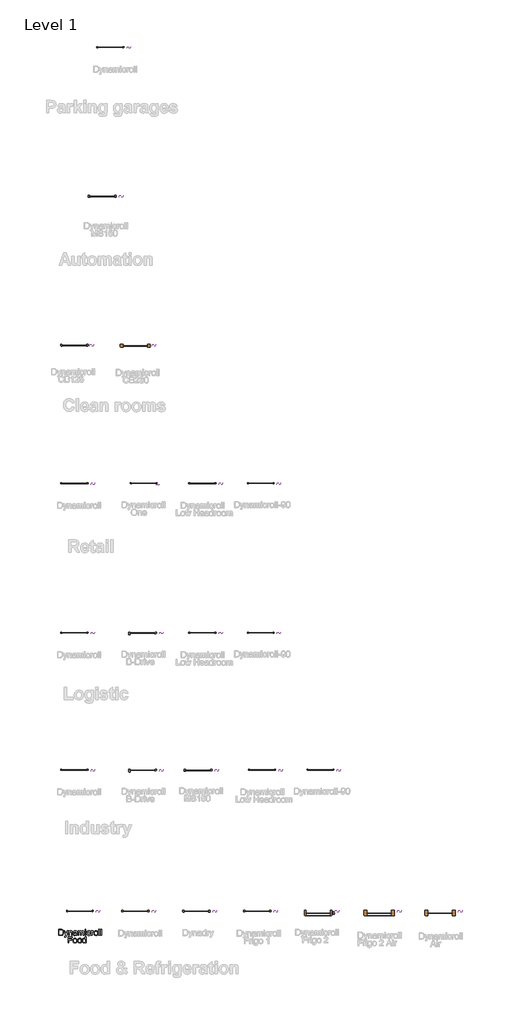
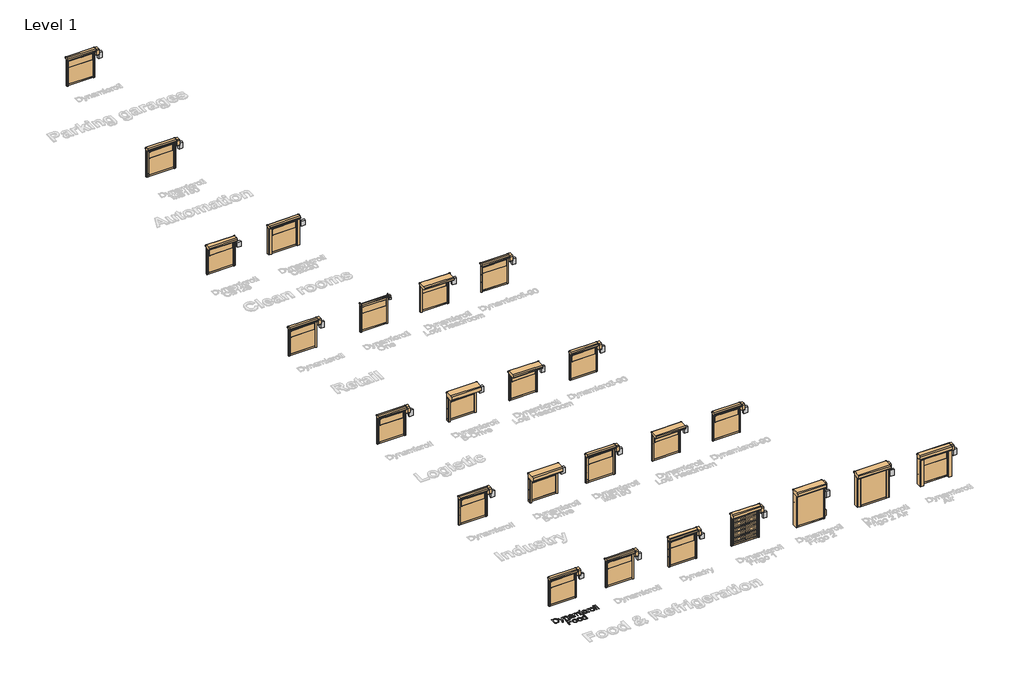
# One storey, part 1 of 17: 24 doors, 24 electric distribution boards, 1 proxy.
"""IFC4 building model written with IfcOpenShell, lengths in millimetres."""

from ifc_helpers import new_model, si_unit, origin, origin_with_axes, place, context, project, spatial, polyline, outline, extrude, transform, mapped, element, save
from components import door_73d46575, door_7dfef6e7, door_fc38a23d, door_0f29b29e, door_dcf74658, door_a66aba2e, door_ffd00a84, door_82254b21, door_781c7d04, door_8d8b76a4, door_111b3a7b, door_f3b390bc, cb125_eadb58d3, cb230_7affb9d1, ee_wpb_control_panel_bmp_sh_control_panel_one_fab0d9c8, ee_wpb_control_panel_bmp_sh_control_panel_pvc_26d0edfe, ee_wpb_control_panel_bmp_sh_control_panel_powder_coated_2337cf2d

model = new_model("IFC4")

# Units and contexts
model_context = context("Model", 3, world=origin())
ifc_project = project(units=[si_unit("LENGTHUNIT", "METRE", prefix="MILLI")], contexts=[model_context])

# Site, building, storey
site = spatial("IfcSite", under=ifc_project)
building = spatial("IfcBuilding", under=site)
storey = spatial("IfcBuildingStorey", under=building, Name="Level 1", Elevation=0.0)

# Proxy
placement = place(None, origin())
element("IfcBuildingElementProxy", 1, Name="500mm", ObjectType="500mm", at=placement, inside=storey, context=model_context, shape_type="SweptSolid", body=[
    extrude(outline(polyline([(202.3822984, 7606.4708973), (202.3822984, 8108.7524481), (375.6547181, 8108.7524481), (427.4341089, 8106.9436949), (465.2952976, 8101.5174355), (505.3331214, 8087.5685765), (539.1169513, 8065.5876273), (557.7333131, 8047.6227232), (573.851143, 8027.3278998), (587.470441, 8004.7031571), (598.5912072, 7979.7484951), (613.3984575, 7923.7691182), (618.3342076, 7860.309474), (614.9926128, 7806.3994333), (604.9678284, 7758.9579843), (589.7007256, 7718.567607), (570.6321755, 7685.810781), (548.6818831, 7659.9517424), (524.7695535, 7640.2547272), (497.3163596, 7625.6467463), (464.7434746, 7615.0548106), (426.9895848, 7608.6168756), (383.9933766, 7606.4708973), (202.3822984, 7606.4708973)]), holes=[polyline([(265.1674922, 7669.2560912), (376.2678547, 7669.2560912), (422.2224473, 7671.5246968), (457.0792663, 7678.3305137), (483.382829, 7689.2750031), (503.6776524, 7703.9596261), (525.489989, 7731.1369085), (541.8760662, 7766.3156242), (552.1307769, 7809.6490576), (555.5490137, 7861.2904927), (553.8743842, 7897.741467), (548.8504957, 7929.7165438), (540.4773482, 7957.2157229), (528.7549417, 7980.2390044), (514.6336381, 7999.3075545), (499.063799, 8014.9425393), (482.0454247, 8027.1439588), (463.5785149, 8035.911813), (427.4647657, 8043.4533939), (374.5510721, 8045.9672542), (265.1674922, 8045.9672542), (265.1674922, 7669.2560912)])]), origin_with_axes(), (0.0, 0.0, 1.0), 5.0),
    extrude(outline(polyline([(696.8156999, 7465.2042112), (688.9675506, 7525.6594857), (720.8506569, 7520.1412558), (737.6199445, 7521.8733669), (750.6490985, 7527.0697), (760.7965102, 7535.3623734), (768.9205709, 7546.3835048), (786.0883974, 7592.6140089), (790.9934906, 7607.819798), (657.5749537, 7975.3339112), (723.7937129, 7975.3339112), (794.5496833, 7770.5462672), (819.1977769, 7688.6312096), (843.8458706, 7760.9813353), (916.5638783, 7975.3339112), (982.2921281, 7975.3339112), (853.9013118, 7597.6417295), (820.5466776, 7515.7266719), (803.4708216, 7489.5763934), (784.1263601, 7471.4582051), (761.6549015, 7460.8815978), (735.1980547, 7457.356062), (717.0185528, 7459.3180993), (696.8156999, 7465.2042112)])), origin_with_axes(), (0.0, 0.0, 1.0), 5.0),
    extrude(outline(polyline([(1034.2861168, 7606.4708973), (1034.2861168, 7975.3339112), (1097.0713106, 7975.3339112), (1097.0713106, 7923.8304318), (1118.8836473, 7949.7967693), (1145.079911, 7968.3441533), (1175.6601018, 7979.4725836), (1210.6242198, 7983.1820604), (1241.5722926, 7980.1930192), (1269.9145347, 7971.2258956), (1293.5509529, 7957.3996639), (1310.3815542, 7939.8332986), (1321.8012244, 7918.572785), (1329.2048496, 7893.6641082), (1332.5157875, 7832.963579), (1332.5157875, 7606.4708973), (1269.7305937, 7606.4708973), (1269.7305937, 7824.5022932), (1267.9218406, 7856.9678792), (1262.4955811, 7880.0524744), (1252.4861252, 7896.5918358), (1236.9277825, 7909.4217204), (1216.9855126, 7917.65308), (1193.8242754, 7920.3968666), (1174.7595574, 7918.8563607), (1157.0514043, 7914.2348431), (1140.699816, 7906.5323139), (1125.7047926, 7895.7487729), (1113.1776442, 7880.6579469), (1104.2296811, 7860.0335625), (1098.8609032, 7833.8756198), (1097.0713106, 7802.1841188), (1097.0713106, 7606.4708973), (1034.2861168, 7606.4708973)])), origin_with_axes(), (0.0, 0.0, 1.0), 5.0),
    extrude(outline(polyline([(1654.289906, 7653.5597927), (1624.292195, 7627.8387099), (1593.4054358, 7611.0081086), (1560.9245213, 7601.7190882), (1526.1443443, 7598.6227481), (1498.1891448, 7600.4851507), (1473.6751748, 7606.0723585), (1452.6024342, 7615.3843715), (1434.9709232, 7628.4211897), (1421.0488889, 7644.3550786), (1411.1045788, 7662.3583038), (1405.1379926, 7682.4308651), (1403.1491306, 7704.5727627), (1406.1535002, 7730.6004139), (1415.1666091, 7754.2368321), (1429.0694829, 7774.4703418), (1446.743147, 7790.2892676), (1467.5131514, 7802.2454324), (1490.7050455, 7810.8906593), (1545.0289534, 7820.3329639), (1609.2243616, 7830.2657777), (1653.922024, 7841.9153743), (1654.289906, 7855.8948901), (1649.9672925, 7883.9152354), (1636.9994522, 7902.2480215), (1623.924313, 7910.1881412), (1607.9980883, 7915.8596553), (1567.5923825, 7920.3968666), (1530.1910463, 7917.3771685), (1504.0714246, 7908.3180744), (1486.2598047, 7891.5641152), (1473.7824737, 7865.4598219), (1410.9972798, 7873.3079712), (1421.8957839, 7907.6436241), (1438.1592338, 7934.621637), (1461.3051427, 7955.2536856), (1492.8510238, 7970.5514452), (1531.432648, 7980.0244066), (1575.6857863, 7983.1820604), (1618.1301715, 7980.3922886), (1651.7760457, 7972.0229732), (1677.1445749, 7959.4383433), (1694.7569255, 7944.0026279), (1706.4371788, 7924.9187494), (1714.0094165, 7901.3896301), (1717.0750998, 7846.4525855), (1717.0750998, 7768.3389752), (1720.2634105, 7659.2619636), (1724.9845627, 7632.2992791), (1732.7713983, 7606.4708973), (1669.9862044, 7606.4708973), (1659.9307632, 7628.2985624), (1654.289906, 7653.5597927)]), holes=[polyline([(1654.289906, 7779.1301804), (1612.1061039, 7768.6762004), (1552.99973, 7759.8776893), (1498.9823904, 7749.6996208), (1484.9262325, 7742.7405197), (1474.5182377, 7733.144931), (1468.0803028, 7721.6486187), (1465.9343245, 7708.9873467), (1470.6094915, 7690.3173354), (1484.6349925, 7675.0195758), (1507.7042593, 7664.8108504), (1539.5107235, 7661.407942), (1573.2332397, 7665.163404), (1603.0316813, 7676.4297901), (1627.1892657, 7693.0304651), (1643.9892101, 7712.7887939), (1651.4388205, 7733.144931), (1653.922024, 7761.3492173), (1654.289906, 7779.1301804)])]), origin_with_axes(), (0.0, 0.0, 1.0), 5.0),
    extrude(outline(polyline([(1803.4047414, 7606.4708973), (1803.4047414, 7975.3339112), (1866.1899352, 7975.3339112), (1866.1899352, 7914.633382), (1885.0745443, 7942.5157715), (1909.354756, 7964.358765), (1938.2028358, 7978.4762365), (1970.7910492, 7983.1820604), (2005.7091819, 7978.384266), (2033.6988703, 7963.990883), (2054.6068304, 7940.952273), (2068.2797779, 7910.218798), (2091.1651037, 7942.1402253), (2117.2693969, 7964.9412448), (2146.5926576, 7978.6218565), (2179.1348858, 7983.1820604), (2204.2696567, 7981.2851689), (2226.3310801, 7975.5944943), (2245.319156, 7966.1100366), (2261.2338844, 7952.8317958), (2273.8146822, 7935.6064878), (2282.8009663, 7914.2808284), (2288.1927368, 7888.8548176), (2289.9899937, 7859.3284554), (2289.9899937, 7606.4708973), (2227.2047998, 7606.4708973), (2227.2047998, 7832.3504424), (2225.7486002, 7863.6663972), (2221.3800016, 7884.7736267), (2213.1946272, 7899.2283234), (2200.2881005, 7910.58668), (2183.6874255, 7917.9443199), (2164.419606, 7920.3968666), (2146.6271466, 7918.8257039), (2130.4058498, 7914.1122158), (2115.7557158, 7906.2564024), (2102.6767444, 7895.2582636), (2091.9200282, 7880.7959026), (2084.2366594, 7862.5474228), (2079.6266382, 7840.5128241), (2078.0899644, 7814.6921066), (2078.0899644, 7606.4708973), (2015.3047706, 7606.4708973), (2015.3047706, 7839.3402003), (2011.6719359, 7874.8408128), (2000.7734318, 7900.1633568), (1992.3466348, 7909.0155173), (1981.5975828, 7915.3384891), (1953.1327134, 7920.3968666), (1928.9444722, 7917.0246149), (1906.6569547, 7906.9078601), (1888.2628549, 7890.2918566), (1875.7548671, 7867.4218593), (1868.5811682, 7835.6920372), (1866.1899352, 7792.4965596), (1866.1899352, 7606.4708973), (1803.4047414, 7606.4708973)])), origin_with_axes(), (0.0, 0.0, 1.0), 5.0),
    extrude(outline(polyline([(2384.1677844, 8045.9672542), (2384.1677844, 8108.7524481), (2446.9529783, 8108.7524481), (2446.9529783, 8045.9672542), (2384.1677844, 8045.9672542)])), origin_with_axes(), (0.0, 0.0, 1.0), 5.0),
    extrude(outline(polyline([(2384.1677844, 7606.4708973), (2384.1677844, 7975.3339112), (2446.9529783, 7975.3339112), (2446.9529783, 7606.4708973), (2384.1677844, 7606.4708973)])), origin_with_axes(), (0.0, 0.0, 1.0), 5.0),
    extrude(outline(polyline([(2776.5752459, 7739.8894343), (2839.3604398, 7732.041285), (2832.5316302, 7702.4152881), (2821.8553882, 7676.1998638), (2807.3317136, 7653.3950122), (2788.9606064, 7634.0007333), (2767.5161518, 7618.5228648), (2743.7724347, 7607.4672444), (2717.7294551, 7600.8338722), (2689.3872131, 7598.6227481), (2654.1740084, 7601.7075919), (2622.6013025, 7610.9621234), (2594.6690956, 7626.3863424), (2570.3773876, 7647.9802491), (2550.7148614, 7675.3376404), (2536.6701998, 7708.0523133), (2528.2434029, 7746.1242677), (2525.4344706, 7789.5535036), (2530.2322649, 7845.4255816), (2544.625648, 7893.8480492), (2555.4781668, 7914.7981624), (2568.844546, 7932.9508396), (2584.7247855, 7948.3060808), (2603.1188852, 7960.863886), (2644.1223993, 7977.6025168), (2688.5288218, 7983.1820604), (2716.3843866, 7981.2660083), (2741.5804711, 7975.5178522), (2764.1170755, 7965.9375919), (2783.9941995, 7952.5252275), (2800.8746181, 7935.5873273), (2814.4211062, 7915.4304596), (2824.6336637, 7892.0546245), (2831.5122906, 7865.4598219), (2768.7270967, 7857.6116727), (2757.3380833, 7885.0035529), (2739.6031054, 7904.6392544), (2716.5031818, 7916.4574635), (2689.0193311, 7920.3968666), (2667.6860075, 7918.4578219), (2648.4450127, 7912.6406878), (2631.2963468, 7902.9454644), (2616.2400097, 7889.3721516), (2603.9811086, 7871.6065169), (2595.2247507, 7849.3343278), (2589.970936, 7822.5555843), (2588.2196644, 7791.2702863), (2589.9326149, 7759.5136394), (2595.0714666, 7732.4244954), (2603.6362193, 7710.0028543), (2615.626873, 7692.2487159), (2630.384306, 7678.7558773), (2647.2493962, 7669.1181354), (2666.2221437, 7663.3354903), (2687.3025484, 7661.407942), (2719.8141198, 7666.2210647), (2746.470236, 7680.660433), (2757.2499449, 7691.5819298), (2765.8606828, 7705.0939289), (2776.5752459, 7739.8894343)])), origin_with_axes(), (0.0, 0.0, 1.0), 5.0),
    extrude(outline(polyline([(2894.2974844, 7606.4708973), (2894.2974844, 7975.3339112), (2949.234529, 7975.3339112), (2949.234529, 7920.7647486), (2969.5293524, 7952.4026001), (2988.2300205, 7971.0419546), (3006.9920023, 7980.1470339), (3027.4707666, 7983.1820604), (3058.7407362, 7978.3382808), (3090.5012152, 7963.806942), (3069.5319414, 7907.5209967), (3047.4590217, 7917.1778991), (3025.386102, 7920.3968666), (3006.6394487, 7917.3005264), (2989.8854895, 7908.0115061), (2976.3504977, 7893.2349126), (2967.2607468, 7873.6758532), (2959.6271954, 7838.6044363), (2957.0826782, 7800.3447088), (2957.0826782, 7606.4708973), (2894.2974844, 7606.4708973)])), origin_with_axes(), (0.0, 0.0, 1.0), 5.0),
    extrude(outline(polyline([(3114.0456628, 7790.9024043), (3117.4409071, 7838.6734142), (3127.6266398, 7879.8378766), (3144.6028611, 7914.3957915), (3168.3695708, 7942.3471589), (3192.2972289, 7960.2124283), (3218.7080905, 7972.973335), (3247.6021555, 7980.6298791), (3278.979424, 7983.1820604), (3313.6178131, 7980.074224), (3344.9376001, 7970.7507146), (3372.9387848, 7955.2115325), (3397.6213675, 7933.4566774), (3417.7667388, 7906.2219134), (3432.1562898, 7874.2430046), (3440.7900203, 7837.5199508), (3443.6679305, 7796.0527522), (3438.5788963, 7732.6237649), (3432.2176034, 7706.5884495), (3423.3117935, 7684.339253), (3411.9725974, 7665.1212508), (3398.3111462, 7648.1795185), (3382.3274399, 7633.5140561), (3364.0214786, 7621.1248635), (3323.293876, 7604.248277), (3278.979424, 7598.6227481), (3243.8351972, 7601.7190882), (3212.2241703, 7611.0081086), (3184.1463434, 7626.4898092), (3159.6017166, 7648.1641901), (3139.6709431, 7675.6633693), (3125.4346763, 7708.6194647), (3116.8929162, 7747.0324763), (3114.0456628, 7790.9024043)]), holes=[polyline([(3176.8308567, 7791.0250316), (3178.647274, 7760.5713002), (3184.0965261, 7734.2025918), (3193.1786129, 7711.9189063), (3205.8935343, 7693.7202439), (3221.3599065, 7679.5836118), (3238.6963455, 7669.4860174), (3257.9028514, 7663.4274608), (3278.979424, 7661.407942), (3299.9486977, 7663.4389571), (3319.0785615, 7669.5320027), (3336.3690153, 7679.6870786), (3351.8200591, 7693.9041849), (3364.5349805, 7712.2829562), (3373.6170673, 7734.9230273), (3379.0663193, 7761.8243982), (3380.8827367, 7792.9870689), (3379.054823, 7822.4751101), (3373.571082, 7848.1540398), (3364.4315137, 7870.0238579), (3351.6361181, 7888.0845646), (3336.1275927, 7902.2211967), (3318.8486352, 7912.3187911), (3299.7992457, 7918.3773477), (3278.979424, 7920.3968666), (3257.9028514, 7918.3850119), (3238.6963455, 7912.3494479), (3221.3599065, 7902.2901746), (3205.8935343, 7888.207192), (3193.1786129, 7870.062179), (3184.0965261, 7847.8168146), (3178.647274, 7821.4710988), (3176.8308567, 7791.0250316)])]), origin_with_axes(), (0.0, 0.0, 1.0), 5.0),
    extrude(outline(polyline([(3514.3012736, 7606.4708973), (3514.3012736, 8108.7524481), (3577.0864674, 8108.7524481), (3577.0864674, 7606.4708973), (3514.3012736, 7606.4708973)])), origin_with_axes(), (0.0, 0.0, 1.0), 5.0),
    extrude(outline(polyline([(3671.2642582, 7606.4708973), (3671.2642582, 8108.7524481), (3734.0494521, 8108.7524481), (3734.0494521, 7606.4708973), (3671.2642582, 7606.4708973)])), origin_with_axes(), (0.0, 0.0, 1.0), 5.0),
    extrude(outline(polyline([(987.1972214, 6996.5968081), (987.1972214, 7498.8783589), (1324.6676383, 7498.8783589), (1324.6676383, 7436.093165), (1049.9824152, 7436.093165), (1049.9824152, 7286.9783296), (1285.4268922, 7286.9783296), (1285.4268922, 7224.1931358), (1049.9824152, 7224.1931358), (1049.9824152, 6996.5968081), (987.1972214, 6996.5968081)])), origin_with_axes(), (0.0, 0.0, 1.0), 5.0),
    extrude(outline(polyline([(1387.4528322, 7181.028315), (1390.8480764, 7228.7993249), (1401.0338091, 7269.9637874), (1418.0100304, 7304.5217023), (1441.7767401, 7332.4730697), (1465.7043982, 7350.3383391), (1492.1152598, 7363.0992458), (1521.0093248, 7370.7557898), (1552.3865933, 7373.3079712), (1587.0249824, 7370.2001347), (1618.3447694, 7360.8766254), (1646.3459542, 7345.3374432), (1671.0285368, 7323.5825882), (1691.1739081, 7296.3478242), (1705.5634591, 7264.3689154), (1714.1971896, 7227.6458616), (1717.0750998, 7186.178663), (1711.9860656, 7122.7496756), (1705.6247727, 7096.7143603), (1696.7189628, 7074.4651638), (1685.3797667, 7055.2471616), (1671.7183155, 7038.3054293), (1655.7346092, 7023.6399669), (1637.4286479, 7011.2507743), (1596.7010453, 6994.3741877), (1552.3865933, 6988.7486589), (1517.2423665, 6991.844999), (1485.6313396, 7001.1340194), (1457.5535128, 7016.61572), (1433.0088859, 7038.2901009), (1413.0781124, 7065.78928), (1398.8418456, 7098.7453754), (1390.3000855, 7137.1583871), (1387.4528322, 7181.028315)]), holes=[polyline([(1450.238026, 7181.1509424), (1452.0544433, 7150.6972109), (1457.5036954, 7124.3285025), (1466.5857822, 7102.0448171), (1479.3007036, 7083.8461546), (1494.7670758, 7069.7095226), (1512.1035148, 7059.6119282), (1531.3100207, 7053.5533716), (1552.3865933, 7051.5338527), (1573.355867, 7053.5648679), (1592.4857308, 7059.6579135), (1609.7761846, 7069.8129894), (1625.2272284, 7084.0300956), (1637.9421498, 7102.408867), (1647.0242366, 7125.0489381), (1652.4734886, 7151.950309), (1654.289906, 7183.1129797), (1652.4619923, 7212.6010208), (1646.9782513, 7238.2799505), (1637.838683, 7260.1497687), (1625.0432874, 7278.2104754), (1609.534762, 7292.3471075), (1592.2558045, 7302.4447019), (1573.206415, 7308.5032585), (1552.3865933, 7310.5227773), (1531.3100207, 7308.5109227), (1512.1035148, 7302.4753587), (1494.7670758, 7292.4160854), (1479.3007036, 7278.3331028), (1466.5857822, 7260.1880898), (1457.5036954, 7237.9427254), (1452.0544433, 7211.5970096), (1450.238026, 7181.1509424)])]), origin_with_axes(), (0.0, 0.0, 1.0), 5.0),
    extrude(outline(polyline([(1772.0121444, 7181.028315), (1775.4073887, 7228.7993249), (1785.5931214, 7269.9637874), (1802.5693427, 7304.5217023), (1826.3360524, 7332.4730697), (1850.2637105, 7350.3383391), (1876.6745721, 7363.0992458), (1905.5686371, 7370.7557898), (1936.9459056, 7373.3079712), (1971.5842947, 7370.2001347), (2002.9040817, 7360.8766254), (2030.9052664, 7345.3374432), (2055.5878491, 7323.5825882), (2075.7332204, 7296.3478242), (2090.1227714, 7264.3689154), (2098.7565019, 7227.6458616), (2101.6344121, 7186.178663), (2096.5453779, 7122.7496756), (2090.184085, 7096.7143603), (2081.2782751, 7074.4651638), (2069.939079, 7055.2471616), (2056.2776278, 7038.3054293), (2040.2939215, 7023.6399669), (2021.9879602, 7011.2507743), (1981.2603576, 6994.3741877), (1936.9459056, 6988.7486589), (1901.8016788, 6991.844999), (1870.1906519, 7001.1340194), (1842.112825, 7016.61572), (1817.5681982, 7038.2901009), (1797.6374247, 7065.78928), (1783.4011579, 7098.7453754), (1774.8593978, 7137.1583871), (1772.0121444, 7181.028315)]), holes=[polyline([(1834.7973383, 7181.1509424), (1836.6137556, 7150.6972109), (1842.0630077, 7124.3285025), (1851.1450944, 7102.0448171), (1863.8600159, 7083.8461546), (1879.3263881, 7069.7095226), (1896.6628271, 7059.6119282), (1915.869333, 7053.5533716), (1936.9459056, 7051.5338527), (1957.9151793, 7053.5648679), (1977.0450431, 7059.6579135), (1994.3354969, 7069.8129894), (2009.7865407, 7084.0300956), (2022.5014621, 7102.408867), (2031.5835489, 7125.0489381), (2037.0328009, 7151.950309), (2038.8492183, 7183.1129797), (2037.0213046, 7212.6010208), (2031.5375636, 7238.2799505), (2022.3979953, 7260.1497687), (2009.6025997, 7278.2104754), (1994.0940743, 7292.3471075), (1976.8151168, 7302.4447019), (1957.7657273, 7308.5032585), (1936.9459056, 7310.5227773), (1915.869333, 7308.5109227), (1896.6628271, 7302.4753587), (1879.3263881, 7292.4160854), (1863.8600159, 7278.3331028), (1851.1450944, 7260.1880898), (1842.0630077, 7237.9427254), (1836.6137556, 7211.5970096), (1834.7973383, 7181.1509424)])]), origin_with_axes(), (0.0, 0.0, 1.0), 5.0),
    extrude(outline(polyline([(2399.8640829, 6996.5968081), (2399.8640829, 7055.8258093), (2381.0791085, 7026.479556), (2358.3240743, 7005.5179465), (2331.5989801, 6992.9409808), (2300.9038262, 6988.7486589), (2260.3141794, 6994.8187118), (2223.1580979, 7013.0288706), (2191.7041873, 7042.1068766), (2168.2210532, 7080.7804713), (2153.5977439, 7127.4861563), (2148.7233075, 7180.660433), (2153.2145335, 7233.1755878), (2166.6882116, 7280.6017084), (2176.7896381, 7301.7319305), (2189.1290133, 7320.2409934), (2203.7063374, 7336.128897), (2220.5216102, 7349.3956415), (2258.4900978, 7367.3298888), (2300.6585715, 7373.3079712), (2331.3767181, 7369.031343), (2358.5386721, 7356.2014584), (2381.5619536, 7336.5351001), (2399.8640829, 7311.7490507), (2399.8640829, 7498.8783589), (2462.6492767, 7498.8783589), (2462.6492767, 6996.5968081), (2399.8640829, 6996.5968081)]), holes=[polyline([(2211.5085013, 7180.9056877), (2213.2789334, 7150.4596205), (2218.5902298, 7124.1139047), (2227.4423903, 7101.8685403), (2239.835415, 7083.7235273), (2254.6350011, 7069.6405447), (2270.7068457, 7059.5812714), (2288.050949, 7053.5457074), (2306.6673108, 7051.5338527), (2325.371811, 7053.4537369), (2342.6124474, 7059.2133894), (2358.38922, 7068.8128102), (2372.7021289, 7082.2519993), (2384.5854838, 7099.6382557), (2393.0735944, 7121.0788782), (2398.1664608, 7146.5738669), (2399.8640829, 7176.1232218), (2398.1358039, 7208.51983), (2392.9509671, 7236.3025848), (2384.3095723, 7259.4714863), (2372.2116196, 7278.0265344), (2357.5844782, 7292.2436407), (2341.3555172, 7302.3987166), (2323.5247368, 7308.4917622), (2304.0921368, 7310.5227773), (2285.107893, 7308.5722363), (2267.7637898, 7302.7206134), (2252.0598271, 7292.9679084), (2237.996005, 7279.3141214), (2226.4077222, 7261.4603483), (2218.1303773, 7239.107685), (2213.1639703, 7212.2561315), (2211.5085013, 7180.9056877)])]), origin_with_axes(), (0.0, 0.0, 1.0), 5.0),
])

# Doors
door_shape = door_73d46575(model_context)
element("IfcDoor", 2, ObjectType="DO_WPB_Dynamicroll_BMP : Dynamicroll", at=placement, inside=storey, context=model_context, shape_type="MappedRepresentation", body=[
    mapped(door_shape, transform((6497.2684086, 9654.9840976, 0.0), x_axis=(1.0, 0.0, 0.0), y_axis=(0.0, 1.0, 0.0), z_axis=(0.0, 0.0, 1.0))),
])
element("IfcDoor", 3, ObjectType="DO_WPB_Dynamicroll_BMP : Dynamicroll", at=placement, inside=storey, context=model_context, shape_type="MappedRepresentation", body=[
    mapped(door_shape, transform((1488.8652486, 32462.1380074, 0.0), x_axis=(1.0, 0.0, 0.0), y_axis=(0.0, 1.0, 0.0), z_axis=(0.0, 0.0, 1.0))),
])
element("IfcDoor", 4, ObjectType="DO_WPB_Dynamicroll_BMP : Dynamicroll", at=placement, inside=storey, context=model_context, shape_type="MappedRepresentation", body=[
    mapped(door_shape, transform((1488.8652486, 21224.4832479, 0.0), x_axis=(1.0, 0.0, 0.0), y_axis=(0.0, 1.0, 0.0), z_axis=(0.0, 0.0, 1.0))),
])
element("IfcDoor", 5, ObjectType="DO_WPB_Dynamicroll_BMP : Dynamicroll", at=placement, inside=storey, context=model_context, shape_type="MappedRepresentation", body=[
    mapped(door_shape, transform((1488.8652486, 44698.8509751, 0.0), x_axis=(1.0, 0.0, 0.0), y_axis=(0.0, 1.0, 0.0), z_axis=(0.0, 0.0, 1.0))),
])
element("IfcDoor", 6, ObjectType="DO_WPB_Dynamicroll_BMP : Dynamicroll", at=placement, inside=storey, context=model_context, shape_type="MappedRepresentation", body=[
    mapped(door_shape, transform((4445.6536388, 80429.8524972, 0.0), x_axis=(1.0, 0.0, 0.0), y_axis=(0.0, 1.0, 0.0), z_axis=(0.0, 0.0, 1.0))),
])
door_2_shape = door_7dfef6e7(model_context)
element("IfcDoor", 7, ObjectType="DO_WPB_Dynamicroll_BMP : Dynamicroll-90", at=placement, inside=storey, context=model_context, shape_type="MappedRepresentation", body=[
    mapped(door_2_shape, transform((16781.7584674, 32462.1380074, 0.0), x_axis=(1.0, 0.0, 0.0), y_axis=(0.0, 1.0, 0.0), z_axis=(0.0, 0.0, 1.0))),
])
element("IfcDoor", 8, ObjectType="DO_WPB_Dynamicroll_BMP : Dynamicroll-90", at=placement, inside=storey, context=model_context, shape_type="MappedRepresentation", body=[
    mapped(door_2_shape, transform((21681.7584674, 21224.4832479, 0.0), x_axis=(1.0, 0.0, 0.0), y_axis=(0.0, 1.0, 0.0), z_axis=(0.0, 0.0, 1.0))),
])
element("IfcDoor", 9, ObjectType="DO_WPB_Dynamicroll_BMP : Dynamicroll-90", at=placement, inside=storey, context=model_context, shape_type="MappedRepresentation", body=[
    mapped(door_2_shape, transform((16781.7584674, 44698.8509751, 0.0), x_axis=(1.0, 0.0, 0.0), y_axis=(0.0, 1.0, 0.0), z_axis=(0.0, 0.0, 1.0))),
])
door_3_shape = door_fc38a23d(model_context)
element("IfcDoor", 10, ObjectType="DO_WPB_Dynamicroll_BMP : Dynamicroll MS150", at=placement, inside=storey, context=model_context, shape_type="MappedRepresentation", body=[
    mapped(door_3_shape, transform((11635.9345844, 21224.4832479, 0.0), x_axis=(1.0, 0.0, 0.0), y_axis=(0.0, 1.0, 0.0), z_axis=(0.0, 0.0, 1.0))),
])
element("IfcDoor", 11, ObjectType="DO_WPB_Dynamicroll_BMP : Dynamicroll MS150", at=placement, inside=storey, context=model_context, shape_type="MappedRepresentation", body=[
    mapped(door_3_shape, transform((3788.8652486, 68233.2125546, 0.0), x_axis=(1.0, 0.0, 0.0), y_axis=(0.0, 1.0, 0.0), z_axis=(0.0, 0.0, 1.0))),
])
door_4_shape = door_0f29b29e(model_context)
element("IfcDoor", 12, ObjectType="DO_WPB_Dynamicroll_BMP : Dynamicroll Food Inox", at=placement, inside=storey, context=model_context, shape_type="MappedRepresentation", body=[
    mapped(door_4_shape, transform((1948.7786866, 9654.9840976, 0.0), x_axis=(1.0, 0.0, 0.0), y_axis=(0.0, 1.0, 0.0), z_axis=(0.0, 0.0, 1.0))),
])
door_5_shape = door_dcf74658(model_context)
element("IfcDoor", 13, ObjectType="DO_WPB_Dynadry_BMP : Dynadry", at=placement, inside=storey, context=model_context, shape_type="MappedRepresentation", body=[
    mapped(door_5_shape, transform((11497.2684086, 9654.9840976, 0.0), x_axis=(1.0, 0.0, 0.0), y_axis=(0.0, 1.0, 0.0), z_axis=(0.0, 0.0, 1.0))),
])
door_6_shape = door_a66aba2e(model_context)
element("IfcDoor", 14, ObjectType="DO_WPB_Dynamicroll Frigo_Air_BMP : Dynamicroll Frigo1", at=placement, inside=storey, context=model_context, shape_type="MappedRepresentation", body=[
    mapped(door_6_shape, transform((16497.2684086, 9654.9840976, 0.0), x_axis=(1.0, 0.0, 0.0), y_axis=(0.0, 1.0, 0.0), z_axis=(0.0, 0.0, 1.0))),
])
door_7_shape = door_ffd00a84(model_context)
element("IfcDoor", 15, ObjectType="DO_WPB_Dynamicroll Frigo_Air_BMP : Dynamicroll Frigo2", at=placement, inside=storey, context=model_context, shape_type="MappedRepresentation", body=[
    mapped(door_7_shape, transform((21497.2684086, 9654.9840976, 0.0), x_axis=(1.0, 0.0, 0.0), y_axis=(0.0, 1.0, 0.0), z_axis=(0.0, 0.0, 1.0))),
])
door_8_shape = door_82254b21(model_context)
element("IfcDoor", 16, ObjectType="DO_WPB_Dynamicroll Frigo_Air_BMP : Dynamicroll Frigo2 Air", at=placement, inside=storey, context=model_context, shape_type="MappedRepresentation", body=[
    mapped(door_8_shape, transform((26497.2684086, 9654.9840976, 0.0), x_axis=(1.0, 0.0, 0.0), y_axis=(0.0, 1.0, 0.0), z_axis=(0.0, 0.0, 1.0))),
])
door_9_shape = door_781c7d04(model_context)
element("IfcDoor", 17, ObjectType="DO_WPB_Dynamicroll Frigo_Air_BMP : Dynamicroll Air", at=placement, inside=storey, context=model_context, shape_type="MappedRepresentation", body=[
    mapped(door_9_shape, transform((31497.2684086, 9654.9840976, 0.0), x_axis=(1.0, 0.0, 0.0), y_axis=(0.0, 1.0, 0.0), z_axis=(0.0, 0.0, 1.0))),
])
door_10_shape = door_8d8b76a4(model_context)
element("IfcDoor", 18, ObjectType="DO_WPB_Dynamicroll_BMP : Dynamicroll B-Drive", at=placement, inside=storey, context=model_context, shape_type="MappedRepresentation", body=[
    mapped(door_10_shape, transform((7088.8652486, 32462.1380074, 0.0), x_axis=(1.0, 0.0, 0.0), y_axis=(0.0, 1.0, 0.0), z_axis=(0.0, 0.0, 1.0))),
])
element("IfcDoor", 19, ObjectType="DO_WPB_Dynamicroll_BMP : Dynamicroll B-Drive", at=placement, inside=storey, context=model_context, shape_type="MappedRepresentation", body=[
    mapped(door_10_shape, transform((7088.8652486, 21224.4832479, 0.0), x_axis=(1.0, 0.0, 0.0), y_axis=(0.0, 1.0, 0.0), z_axis=(0.0, 0.0, 1.0))),
])
door_11_shape = door_111b3a7b(model_context)
element("IfcDoor", 20, ObjectType="DO_WPB_Dynamicroll_BMP : Dynamicroll Low Headroom", at=placement, inside=storey, context=model_context, shape_type="MappedRepresentation", body=[
    mapped(door_11_shape, transform((11988.8652486, 32462.1380074, 0.0), x_axis=(1.0, 0.0, 0.0), y_axis=(0.0, 1.0, 0.0), z_axis=(0.0, 0.0, 1.0))),
])
element("IfcDoor", 21, ObjectType="DO_WPB_Dynamicroll_BMP : Dynamicroll Low Headroom", at=placement, inside=storey, context=model_context, shape_type="MappedRepresentation", body=[
    mapped(door_11_shape, transform((16888.8652486, 21224.4832479, 0.0), x_axis=(1.0, 0.0, 0.0), y_axis=(0.0, 1.0, 0.0), z_axis=(0.0, 0.0, 1.0))),
])
element("IfcDoor", 22, ObjectType="DO_WPB_Dynamicroll_BMP : Dynamicroll Low Headroom", at=placement, inside=storey, context=model_context, shape_type="MappedRepresentation", body=[
    mapped(door_11_shape, transform((11988.8652486, 44698.8509751, 0.0), x_axis=(1.0, 0.0, 0.0), y_axis=(0.0, 1.0, 0.0), z_axis=(0.0, 0.0, 1.0))),
])
door_12_shape = door_f3b390bc(model_context)
element("IfcDoor", 23, ObjectType="DO_WPB_Dynamicroll_BMP : Dynamicroll One", at=placement, inside=storey, context=model_context, shape_type="MappedRepresentation", body=[
    mapped(door_12_shape, transform((7181.7584674, 44698.8509751, 0.0), x_axis=(1.0, 0.0, 0.0), y_axis=(0.0, 1.0, 0.0), z_axis=(0.0, 0.0, 1.0))),
])
cb125_shape = cb125_eadb58d3(model_context)
element("IfcDoor", 24, ObjectType="DO_WPB_Dynamicroll Cleanroom_BMP : CB125", at=placement, inside=storey, context=model_context, shape_type="MappedRepresentation", body=[
    mapped(cb125_shape, transform((1497.2684086, 56020.8553836, 0.0), x_axis=(1.0, 0.0, 0.0), y_axis=(0.0, 1.0, 0.0), z_axis=(0.0, 0.0, 1.0))),
])
cb230_shape = cb230_7affb9d1(model_context)
element("IfcDoor", 25, ObjectType="DO_WPB_Dynamicroll Cleanroom_BMP : CB230", at=placement, inside=storey, context=model_context, shape_type="MappedRepresentation", body=[
    mapped(cb230_shape, transform((6497.2684086, 56020.8553836, 0.0), x_axis=(1.0, 0.0, 0.0), y_axis=(0.0, 1.0, 0.0), z_axis=(0.0, 0.0, 1.0))),
])

# Electric distribution boards
ee_wpb_control_panel_bmp_sh_control_panel_one_shape = ee_wpb_control_panel_bmp_sh_control_panel_one_fab0d9c8(model_context)
element("IfcElectricDistributionBoard", 26, ObjectType="EE_WPB_control panel_BMP_SH : Control panel One", at=placement, inside=storey, context=model_context, shape_type="MappedRepresentation", body=[
    mapped(ee_wpb_control_panel_bmp_sh_control_panel_one_shape, transform((8371.7584674, 44573.8509751, 2050.0), x_axis=(1.0, 0.0, 0.0), y_axis=(0.0, 1.0, 0.0), z_axis=(0.0, 0.0, 1.0))),
])
ee_wpb_control_panel_bmp_sh_control_panel_pvc_shape = ee_wpb_control_panel_bmp_sh_control_panel_pvc_26d0edfe(model_context)
element("IfcElectricDistributionBoard", 27, ObjectType="EE_WPB_control panel_BMP_SH : Control panel PVC", at=placement, inside=storey, context=model_context, shape_type="MappedRepresentation", body=[
    mapped(ee_wpb_control_panel_bmp_sh_control_panel_pvc_shape, transform((2922.2684086, 56020.8553836, 1500.0), x_axis=(1.0, 0.0, 0.0), y_axis=(0.0, 1.0, 0.0), z_axis=(0.0, 0.0, 1.0))),
])
element("IfcElectricDistributionBoard", 28, ObjectType="EE_WPB_control panel_BMP_SH : Control panel PVC", at=placement, inside=storey, context=model_context, shape_type="MappedRepresentation", body=[
    mapped(ee_wpb_control_panel_bmp_sh_control_panel_pvc_shape, transform((8027.2684086, 56020.8553836, 1500.0), x_axis=(1.0, 0.0, 0.0), y_axis=(0.0, 1.0, 0.0), z_axis=(0.0, 0.0, 1.0))),
])
element("IfcElectricDistributionBoard", 29, ObjectType="EE_WPB_control panel_BMP_SH : Control panel PVC", at=placement, inside=storey, context=model_context, shape_type="MappedRepresentation", body=[
    mapped(ee_wpb_control_panel_bmp_sh_control_panel_pvc_shape, transform((13022.2684086, 9654.9840976, 1500.0), x_axis=(1.0, 0.0, 0.0), y_axis=(0.0, 1.0, 0.0), z_axis=(0.0, 0.0, 1.0))),
])
element("IfcElectricDistributionBoard", 30, ObjectType="EE_WPB_control panel_BMP_SH : Control panel PVC", at=placement, inside=storey, context=model_context, shape_type="MappedRepresentation", body=[
    mapped(ee_wpb_control_panel_bmp_sh_control_panel_pvc_shape, transform((3438.7786866, 9654.9840976, 1500.0), x_axis=(1.0, 0.0, 0.0), y_axis=(0.0, 1.0, 0.0), z_axis=(0.0, 0.0, 1.0))),
])
ee_wpb_control_panel_bmp_sh_control_panel_powder_coated_shape = ee_wpb_control_panel_bmp_sh_control_panel_powder_coated_2337cf2d(model_context)
element("IfcElectricDistributionBoard", 31, ObjectType="EE_WPB_control panel_BMP_SH : Control panel Powder coated steel", at=placement, inside=storey, context=model_context, shape_type="MappedRepresentation", body=[
    mapped(ee_wpb_control_panel_bmp_sh_control_panel_powder_coated_shape, transform((18022.2684086, 9654.9840976, 1500.0), x_axis=(1.0, 0.0, 0.0), y_axis=(0.0, 1.0, 0.0), z_axis=(0.0, 0.0, 1.0))),
])
element("IfcElectricDistributionBoard", 32, ObjectType="EE_WPB_control panel_BMP_SH : Control panel Powder coated steel", at=placement, inside=storey, context=model_context, shape_type="MappedRepresentation", body=[
    mapped(ee_wpb_control_panel_bmp_sh_control_panel_powder_coated_shape, transform((23032.2684086, 9654.9840976, 1500.0), x_axis=(1.0, 0.0, 0.0), y_axis=(0.0, 1.0, 0.0), z_axis=(0.0, 0.0, 1.0))),
])
element("IfcElectricDistributionBoard", 33, ObjectType="EE_WPB_control panel_BMP_SH : Control panel Powder coated steel", at=placement, inside=storey, context=model_context, shape_type="MappedRepresentation", body=[
    mapped(ee_wpb_control_panel_bmp_sh_control_panel_powder_coated_shape, transform((28157.2684086, 9654.9840976, 1500.0), x_axis=(1.0, 0.0, 0.0), y_axis=(0.0, 1.0, 0.0), z_axis=(0.0, 0.0, 1.0))),
])
element("IfcElectricDistributionBoard", 34, ObjectType="EE_WPB_control panel_BMP_SH : Control panel Powder coated steel", at=placement, inside=storey, context=model_context, shape_type="MappedRepresentation", body=[
    mapped(ee_wpb_control_panel_bmp_sh_control_panel_powder_coated_shape, transform((33157.2684086, 9654.9840976, 1500.0), x_axis=(1.0, 0.0, 0.0), y_axis=(0.0, 1.0, 0.0), z_axis=(0.0, 0.0, 1.0))),
])
element("IfcElectricDistributionBoard", 35, ObjectType="EE_WPB_control panel_BMP_SH : Control panel Powder coated steel", at=placement, inside=storey, context=model_context, shape_type="MappedRepresentation", body=[
    mapped(ee_wpb_control_panel_bmp_sh_control_panel_powder_coated_shape, transform((8022.2684086, 9654.9840976, 1500.0), x_axis=(1.0, 0.0, 0.0), y_axis=(0.0, 1.0, 0.0), z_axis=(0.0, 0.0, 1.0))),
])
element("IfcElectricDistributionBoard", 36, ObjectType="EE_WPB_control panel_BMP_SH : Control panel Powder coated steel", at=placement, inside=storey, context=model_context, shape_type="MappedRepresentation", body=[
    mapped(ee_wpb_control_panel_bmp_sh_control_panel_powder_coated_shape, transform((3013.8652486, 32462.1380074, 1500.0), x_axis=(1.0, 0.0, 0.0), y_axis=(0.0, 1.0, 0.0), z_axis=(0.0, 0.0, 1.0))),
])
element("IfcElectricDistributionBoard", 37, ObjectType="EE_WPB_control panel_BMP_SH : Control panel Powder coated steel", at=placement, inside=storey, context=model_context, shape_type="MappedRepresentation", body=[
    mapped(ee_wpb_control_panel_bmp_sh_control_panel_powder_coated_shape, transform((8628.8652486, 32462.1380074, 1500.0), x_axis=(1.0, 0.0, 0.0), y_axis=(0.0, 1.0, 0.0), z_axis=(0.0, 0.0, 1.0))),
])
element("IfcElectricDistributionBoard", 38, ObjectType="EE_WPB_control panel_BMP_SH : Control panel Powder coated steel", at=placement, inside=storey, context=model_context, shape_type="MappedRepresentation", body=[
    mapped(ee_wpb_control_panel_bmp_sh_control_panel_powder_coated_shape, transform((13513.8652486, 32462.1380074, 1500.0), x_axis=(1.0, 0.0, 0.0), y_axis=(0.0, 1.0, 0.0), z_axis=(0.0, 0.0, 1.0))),
])
element("IfcElectricDistributionBoard", 39, ObjectType="EE_WPB_control panel_BMP_SH : Control panel Powder coated steel", at=placement, inside=storey, context=model_context, shape_type="MappedRepresentation", body=[
    mapped(ee_wpb_control_panel_bmp_sh_control_panel_powder_coated_shape, transform((18271.7584674, 32462.1380074, 1500.0), x_axis=(1.0, 0.0, 0.0), y_axis=(0.0, 1.0, 0.0), z_axis=(0.0, 0.0, 1.0))),
])
element("IfcElectricDistributionBoard", 40, ObjectType="EE_WPB_control panel_BMP_SH : Control panel Powder coated steel", at=placement, inside=storey, context=model_context, shape_type="MappedRepresentation", body=[
    mapped(ee_wpb_control_panel_bmp_sh_control_panel_powder_coated_shape, transform((3013.8652486, 21224.4832479, 1500.0), x_axis=(1.0, 0.0, 0.0), y_axis=(0.0, 1.0, 0.0), z_axis=(0.0, 0.0, 1.0))),
])
element("IfcElectricDistributionBoard", 41, ObjectType="EE_WPB_control panel_BMP_SH : Control panel Powder coated steel", at=placement, inside=storey, context=model_context, shape_type="MappedRepresentation", body=[
    mapped(ee_wpb_control_panel_bmp_sh_control_panel_powder_coated_shape, transform((8628.8652486, 21224.4832479, 1500.0), x_axis=(1.0, 0.0, 0.0), y_axis=(0.0, 1.0, 0.0), z_axis=(0.0, 0.0, 1.0))),
])
element("IfcElectricDistributionBoard", 42, ObjectType="EE_WPB_control panel_BMP_SH : Control panel Powder coated steel", at=placement, inside=storey, context=model_context, shape_type="MappedRepresentation", body=[
    mapped(ee_wpb_control_panel_bmp_sh_control_panel_powder_coated_shape, transform((18413.8652486, 21224.4832479, 1500.0), x_axis=(1.0, 0.0, 0.0), y_axis=(0.0, 1.0, 0.0), z_axis=(0.0, 0.0, 1.0))),
])
element("IfcElectricDistributionBoard", 43, ObjectType="EE_WPB_control panel_BMP_SH : Control panel Powder coated steel", at=placement, inside=storey, context=model_context, shape_type="MappedRepresentation", body=[
    mapped(ee_wpb_control_panel_bmp_sh_control_panel_powder_coated_shape, transform((23171.7584674, 21224.4832479, 1500.0), x_axis=(1.0, 0.0, 0.0), y_axis=(0.0, 1.0, 0.0), z_axis=(0.0, 0.0, 1.0))),
])
element("IfcElectricDistributionBoard", 44, ObjectType="EE_WPB_control panel_BMP_SH : Control panel Powder coated steel", at=placement, inside=storey, context=model_context, shape_type="MappedRepresentation", body=[
    mapped(ee_wpb_control_panel_bmp_sh_control_panel_powder_coated_shape, transform((13185.9345844, 21224.4832479, 1500.0), x_axis=(1.0, 0.0, 0.0), y_axis=(0.0, 1.0, 0.0), z_axis=(0.0, 0.0, 1.0))),
])
element("IfcElectricDistributionBoard", 45, ObjectType="EE_WPB_control panel_BMP_SH : Control panel Powder coated steel", at=placement, inside=storey, context=model_context, shape_type="MappedRepresentation", body=[
    mapped(ee_wpb_control_panel_bmp_sh_control_panel_powder_coated_shape, transform((3013.8652486, 44698.8509751, 1500.0), x_axis=(1.0, 0.0, 0.0), y_axis=(0.0, 1.0, 0.0), z_axis=(0.0, 0.0, 1.0))),
])
element("IfcElectricDistributionBoard", 46, ObjectType="EE_WPB_control panel_BMP_SH : Control panel Powder coated steel", at=placement, inside=storey, context=model_context, shape_type="MappedRepresentation", body=[
    mapped(ee_wpb_control_panel_bmp_sh_control_panel_powder_coated_shape, transform((13513.8652486, 44698.8509751, 1500.0), x_axis=(1.0, 0.0, 0.0), y_axis=(0.0, 1.0, 0.0), z_axis=(0.0, 0.0, 1.0))),
])
element("IfcElectricDistributionBoard", 47, ObjectType="EE_WPB_control panel_BMP_SH : Control panel Powder coated steel", at=placement, inside=storey, context=model_context, shape_type="MappedRepresentation", body=[
    mapped(ee_wpb_control_panel_bmp_sh_control_panel_powder_coated_shape, transform((18271.7584674, 44698.8509751, 1500.0), x_axis=(1.0, 0.0, 0.0), y_axis=(0.0, 1.0, 0.0), z_axis=(0.0, 0.0, 1.0))),
])
element("IfcElectricDistributionBoard", 48, ObjectType="EE_WPB_control panel_BMP_SH : Control panel Powder coated steel", at=placement, inside=storey, context=model_context, shape_type="MappedRepresentation", body=[
    mapped(ee_wpb_control_panel_bmp_sh_control_panel_powder_coated_shape, transform((5338.8652486, 68233.2125546, 1500.0), x_axis=(1.0, 0.0, 0.0), y_axis=(0.0, 1.0, 0.0), z_axis=(0.0, 0.0, 1.0))),
])
element("IfcElectricDistributionBoard", 49, ObjectType="EE_WPB_control panel_BMP_SH : Control panel Powder coated steel", at=placement, inside=storey, context=model_context, shape_type="MappedRepresentation", body=[
    mapped(ee_wpb_control_panel_bmp_sh_control_panel_powder_coated_shape, transform((5970.6536388, 80429.8524972, 1500.0), x_axis=(1.0, 0.0, 0.0), y_axis=(0.0, 1.0, 0.0), z_axis=(0.0, 0.0, 1.0))),
])

save(model, "model.ifc")
